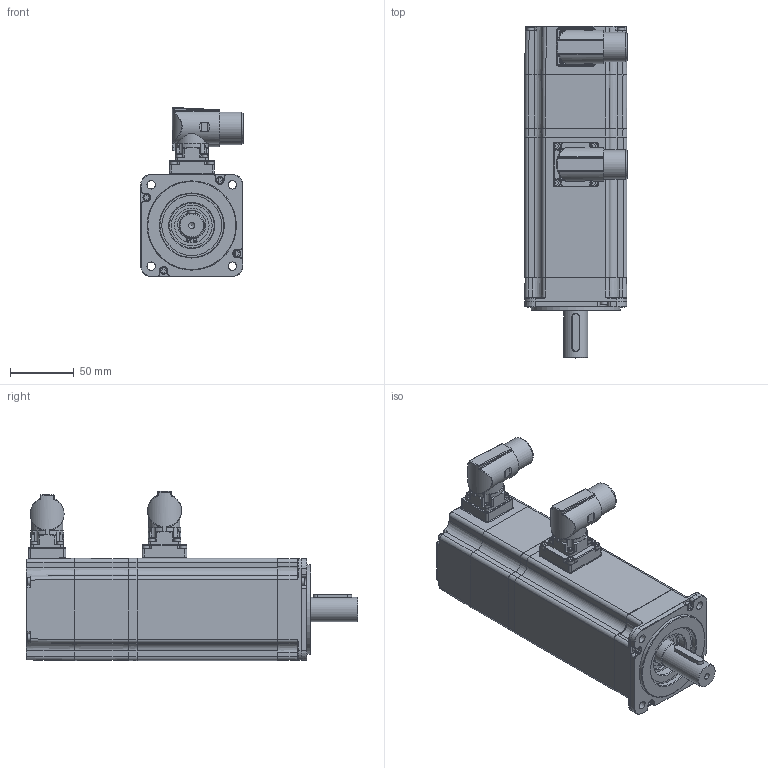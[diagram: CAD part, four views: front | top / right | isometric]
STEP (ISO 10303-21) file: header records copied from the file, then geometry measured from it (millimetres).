
FILE_DESCRIPTION( ( 'Unknown' ), '1' );
FILE_NAME( 'C:/Users/dotti/Desktop/Q0B299_3D/Q0B299.stp', 'Unknown', ( 'Unknown' ), ( 'Unknown' ), 'PSStep 15.0.49', 'Unknown', ' ' );
FILE_SCHEMA( ( 'AUTOMOTIVE_DESIGN { 1 0 10303 214 1 1 1 1 }' ) );
Length unit declared in the file: millimetre
Products named in the file (42): Assem1; Anello-elastico-chiuso  42; CUSC_20_42_12_6004_ZZ; CUSC_15_32_9_6002_ZZ; a-ela  20; 003107001920; N45204; 003303000024; 003251021084; anello-elastico-chiuso  32; Vite a brugola testa cil 8,8 -  M  3 x 25; Vite a brugola testa cil 8,8 -  M  3 x 40; Vite a brugola testa cil 8,8 -  M  3 x 40-oa0; Vite a brugola testa cil 8,8 -  M  3 x 40-oa1; Vite a brugola testa cil 8,8 -  M  3 x 40-oa2; Vite a brugola testa cil 8,8 -  M 2,5 x 8; CN M23 PAN-POT BEDC 110 4+4 pin 90°o SpTcR; CN M23 PAN-SEG AEDC 139 17 pin 90°o SpTcR; LI-PIA   6x6 x 30; Vite a brugola testa cil 8,8 -  M  3 x 10; Vite a brugola testa cil 8,8 -  M  3 x 10-oa3; Vite a brugola testa cil 8,8 -  M  3 x 10-oa4; Vite a brugola testa cil 8,8 -  M  3 x 10-oa5; N33282; N27221; N01H50; 003151003057
Assembly tree (51 placements, depth 2):
  Assem1
    Anello-elastico-chiuso  42
    CUSC_20_42_12_6004_ZZ
    CUSC_20_42_12_6004_ZZ
    CUSC_20_42_12_6004_ZZ
    CUSC_20_42_12_6004_ZZ
    CUSC_20_42_12_6004_ZZ
    CUSC_20_42_12_6004_ZZ
    CUSC_20_42_12_6004_ZZ
    CUSC_20_42_12_6004_ZZ
    CUSC_15_32_9_6002_ZZ
    CUSC_15_32_9_6002_ZZ
    CUSC_15_32_9_6002_ZZ
    CUSC_15_32_9_6002_ZZ
    CUSC_15_32_9_6002_ZZ
    CUSC_15_32_9_6002_ZZ
    CUSC_15_32_9_6002_ZZ
    a-ela  20
    003107001920
    N45204
    003303000024
    003251021084
    003251021084
    anello-elastico-chiuso  32
    Vite a brugola testa cil 8,8 -  M  3 x 25  x4
    Vite a brugola testa cil 8,8 -  M  3 x 40
    Vite a brugola testa cil 8,8 -  M  3 x 40-oa0
    Vite a brugola testa cil 8,8 -  M  3 x 40-oa1
    Vite a brugola testa cil 8,8 -  M  3 x 40-oa2
    Vite a brugola testa cil 8,8 -  M 2,5 x 8  x8
    CN M23 PAN-POT BEDC 110 4+4 pin 90°o SpTcR
    CN M23 PAN-SEG AEDC 139 17 pin 90°o SpTcR
    LI-PIA   6x6 x 30
    Vite a brugola testa cil 8,8 -  M  3 x 10
    Vite a brugola testa cil 8,8 -  M  3 x 10-oa3
    Vite a brugola testa cil 8,8 -  M  3 x 10-oa4
    Vite a brugola testa cil 8,8 -  M  3 x 10-oa5
    N33282
    N33282
    N27221
    N01H50
    003151003057
Bounding box: 80.35 x 260 x 132.46 mm (x, y, z)
Volume: 577263.7 mm3; surface area: 263744.4 mm2
Topology: 51 solids, 53 shells, 1878 faces, 4530 edges, 2894 vertices
Faces by surface type: plane 885, cylinder 547, cone 162, torus 150, bspline 86, extrusion 31, sphere 17
Full cylindrical faces by diameter (mm): 2 x27, 2.013 x5, 2.459 x34, 2.5 x12, 2.7 x8, 3 x16, 3.5 x20, 4.7 x8, 4.917 x1, 5.5 x12, 6 x9, 8 x7, 14 x1, 15 x2, 15.001 x1, 17 x2, 19 x2, 19.8 x2, 20 x6, 20.44 x4, 21.3 x2, 22 x2, 23 x2, 24.5 x2, 26 x1, 26.56 x4, 27.04 x4, 32 x5, 32.2 x3, 32.4 x4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
Entity records: 72732 total; most frequent: CARTESIAN_POINT 21628, DIRECTION 8227, ORIENTED_EDGE 7440, EDGE_CURVE 3720, AXIS2_PLACEMENT_3D 3101, VERTEX_POINT 2606, EDGE_LOOP 2357, VECTOR 2025
